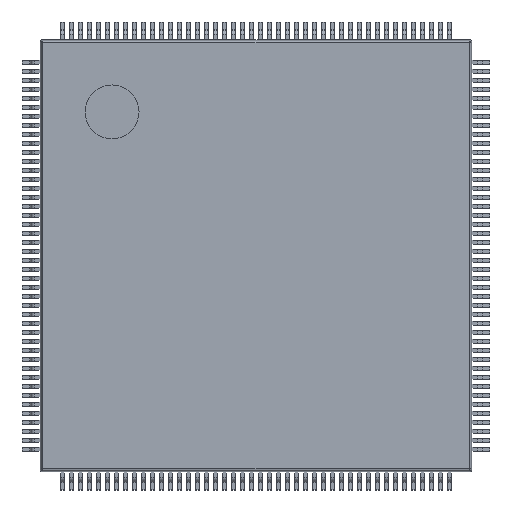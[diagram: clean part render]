
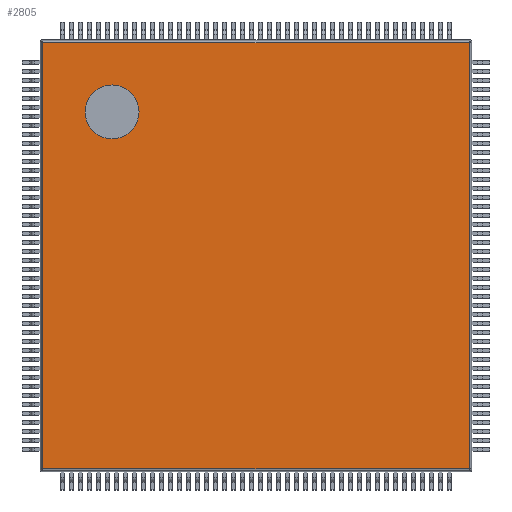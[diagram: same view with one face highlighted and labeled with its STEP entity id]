
A CAD part, top view. The second image highlights one B-rep face of the part: STEP entity #2805.
In plain terms, the highlighted planar face has unit normal (0, 0, 1).
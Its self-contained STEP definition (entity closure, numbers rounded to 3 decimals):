
#2629 = VERTEX_POINT('',#2630);
#2630 = CARTESIAN_POINT('',(0.166,0.166,1.6));
#2637 = EDGE_CURVE('',#2629,#2638,#2640,.T.);
#2638 = VERTEX_POINT('',#2639);
#2639 = CARTESIAN_POINT('',(0.166,23.834,1.6));
#2640 = LINE('',#2641,#2642);
#2641 = CARTESIAN_POINT('',(0.166,0.076,1.6));
#2642 = VECTOR('',#2643,1.);
#2643 = DIRECTION('',(0.,1.,0.));
#2685 = EDGE_CURVE('',#2629,#2686,#2688,.T.);
#2686 = VERTEX_POINT('',#2687);
#2687 = CARTESIAN_POINT('',(23.834,0.166,1.6));
#2688 = LINE('',#2689,#2690);
#2689 = CARTESIAN_POINT('',(0.076,0.166,1.6));
#2690 = VECTOR('',#2691,1.);
#2691 = DIRECTION('',(1.,0.,0.));
#2734 = EDGE_CURVE('',#2638,#2735,#2737,.T.);
#2735 = VERTEX_POINT('',#2736);
#2736 = CARTESIAN_POINT('',(23.834,23.834,1.6));
#2737 = LINE('',#2738,#2739);
#2738 = CARTESIAN_POINT('',(0.076,23.834,1.6));
#2739 = VECTOR('',#2740,1.);
#2740 = DIRECTION('',(1.,0.,0.));
#2766 = EDGE_CURVE('',#2686,#2735,#2767,.T.);
#2767 = LINE('',#2768,#2769);
#2768 = CARTESIAN_POINT('',(23.834,0.076,1.6));
#2769 = VECTOR('',#2770,1.);
#2770 = DIRECTION('',(0.,1.,0.));
#2805 = ADVANCED_FACE('',(#2806,#2812),#2823,.T.);
#2806 = FACE_BOUND('',#2807,.T.);
#2807 = EDGE_LOOP('',(#2808,#2809,#2810,#2811));
#2808 = ORIENTED_EDGE('',*,*,#2637,.F.);
#2809 = ORIENTED_EDGE('',*,*,#2685,.T.);
#2810 = ORIENTED_EDGE('',*,*,#2766,.T.);
#2811 = ORIENTED_EDGE('',*,*,#2734,.F.);
#2812 = FACE_BOUND('',#2813,.T.);
#2813 = EDGE_LOOP('',(#2814));
#2814 = ORIENTED_EDGE('',*,*,#2815,.F.);
#2815 = EDGE_CURVE('',#2816,#2816,#2818,.T.);
#2816 = VERTEX_POINT('',#2817);
#2817 = CARTESIAN_POINT('',(5.5,20.,1.6));
#2818 = CIRCLE('',#2819,1.5);
#2819 = AXIS2_PLACEMENT_3D('',#2820,#2821,#2822);
#2820 = CARTESIAN_POINT('',(4.,20.,1.6));
#2821 = DIRECTION('',(0.,0.,1.));
#2822 = DIRECTION('',(1.,0.,0.));
#2823 = PLANE('',#2824);
#2824 = AXIS2_PLACEMENT_3D('',#2825,#2826,#2827);
#2825 = CARTESIAN_POINT('',(0.,0.,1.6));
#2826 = DIRECTION('',(0.,0.,1.));
#2827 = DIRECTION('',(1.,0.,0.));
